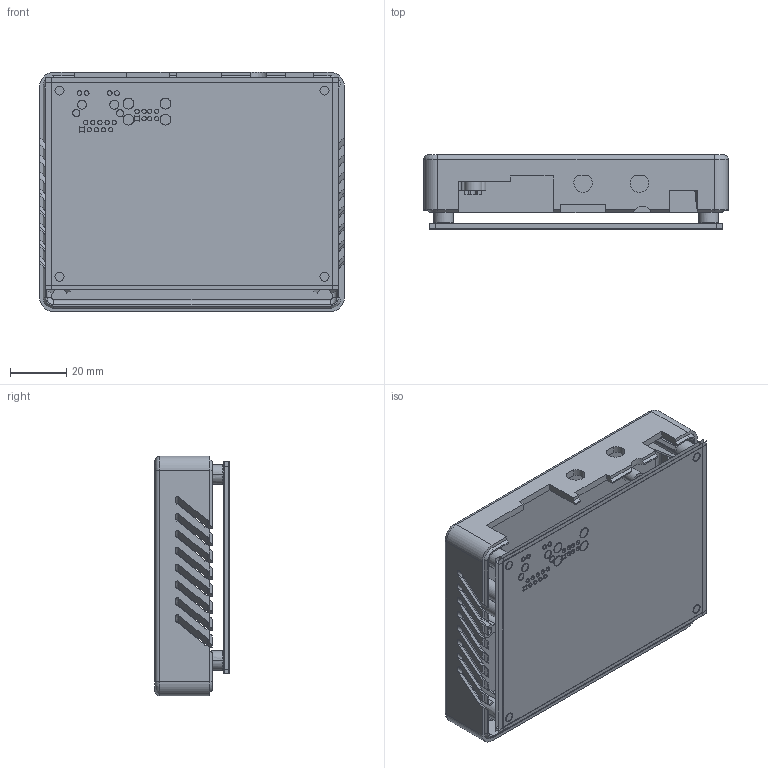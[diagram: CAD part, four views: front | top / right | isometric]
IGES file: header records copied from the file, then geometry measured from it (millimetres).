
Start section:  PTC IGES file: 64001220_cover_cc6_sbc_v1.igs
Global section: file name: 64001220_cover_cc6_sbc_v1.igs; native system: Creo Parametric by Parametric Technology Corporation; preprocessor: 2014090; author: mlarsen; organization: Unknown; date: 20150204.122045; units: millimetre
Bounding box: 108 x 26.27 x 85 mm (x, y, z)
Volume: 39859.2 mm3; surface area: 83817.1 mm2
Topology: 1 solids, 2 shells, 859 faces, 2860 edges, 2475 vertices
Faces by surface type: bspline 364, revolution 268, extrusion 227
